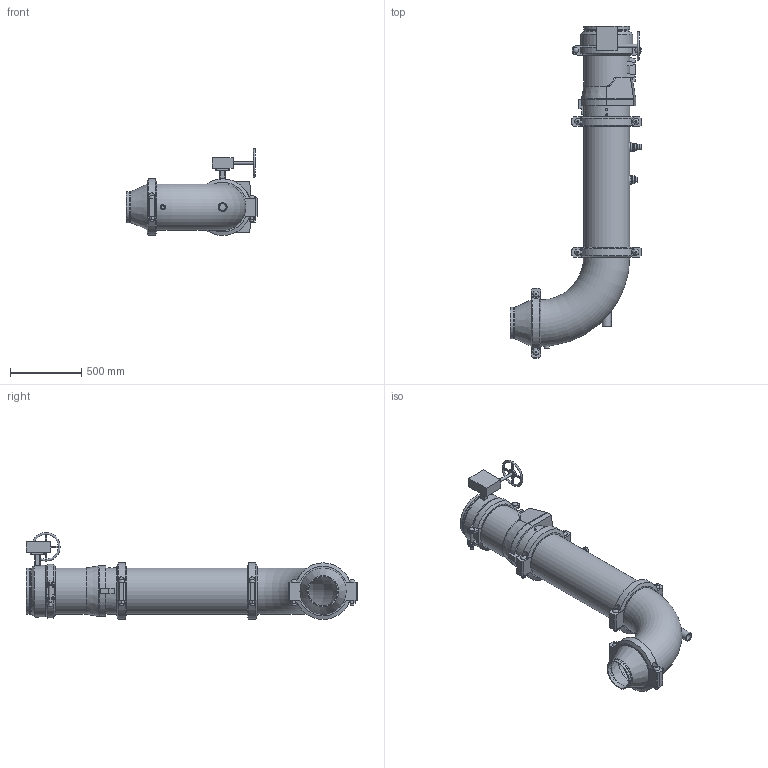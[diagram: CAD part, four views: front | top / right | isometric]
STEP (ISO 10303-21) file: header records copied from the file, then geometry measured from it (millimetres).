
FILE_DESCRIPTION(/* description */ ('VIC DVI PUMP DROP HORZ S/380G (OGS)','CAx-IF Rec.Pracs.---Representation and Presentation of Product Manufacturing Information (PMI)---4.0---2014-10-13'),/* implementation_level */ '2;1');
FILE_NAME(/* name */ 'C:\Users\Vjadhav\AppData\Roaming\Autodesk\ApplicationPlugins\Victaulic.Temp\A853\Victaulic_IPS_Horizontal DVI_Series 380G (OGS)_924 (0.75)_12.0x08.0 (300x200).stp',/* time_stamp */ '2021-07-13T16:47:04+05:00',/* author */ ('Vjadhav'),/* organization */ ('Victaulic'),/* preprocessor_version */ 'ST-DEVELOPER v17.2',/* originating_system */ 'Autodesk Inventor 2019',/* authorisation */ '');
FILE_SCHEMA (('AP242_MANAGED_MODEL_BASED_3D_ENGINEERING_MIM_LF { 1 0 10303 442 1 1 4 }'));
Length unit declared in the file: inch
Products named in the file (10): 380G_924 (0.75)-12.0x08.0; Pipe-12.0; 107N-12.0; 924-10.0x0.75; 923-10.0x0.75; 779-12.0; 761-12.0; 077-12.0; 100G-12.0; 050-12.0x08.0
Assembly tree (11 placements, depth 2):
  380G_924 (0.75)-12.0x08.0
    Pipe-12.0
    107N-12.0
    924-10.0x0.75
    923-10.0x0.75
    779-12.0
    761-12.0
    077-12.0  x3
    100G-12.0
    050-12.0x08.0
Bounding box: 919.16 x 2325.31 x 609.46 mm (x, y, z)
Volume: 46407738.4 mm3; surface area: 6795256.5 mm2
Topology: 11 solids, 18 shells, 619 faces, 1539 edges, 1041 vertices
Faces by surface type: plane 351, cylinder 208, bspline 24, cone 24, torus 10, sphere 2
Full cylindrical faces by diameter (mm): 10.922 x4, 13.716 x4, 20.066 x1, 20.93 x1, 21.336 x1, 22.225 x4, 22.86 x1, 25.4 x12, 26.67 x4, 27.432 x6, 31.75 x1, 34.29 x1, 37.694 x2, 38.608 x1, 45.974 x4, 48.26 x1, 55.626 x2, 60.96 x1, 63.079 x1, 70.104 x1, 76.2 x1, 202.717 x1, 214.401 x1, 219.075 x2, 303.225 x2, 304.8 x4, 311.15 x1, 314.96 x3, 318.287 x9, 323.85 x23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
Entity records: 17293 total; most frequent: CARTESIAN_POINT 3983, DIRECTION 2718, ORIENTED_EDGE 2498, EDGE_CURVE 1249, AXIS2_PLACEMENT_3D 1040, VERTEX_POINT 845, LINE 638, VECTOR 638
